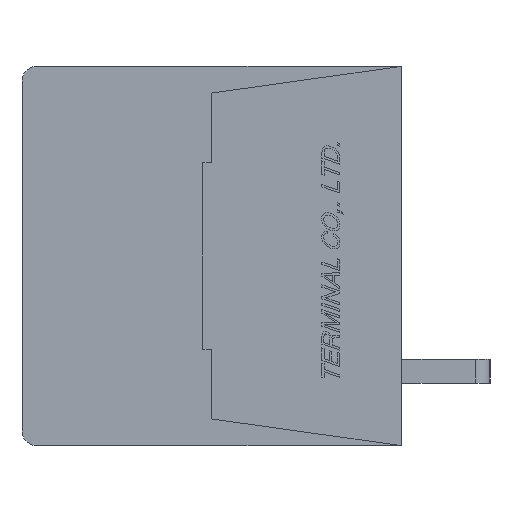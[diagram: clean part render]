
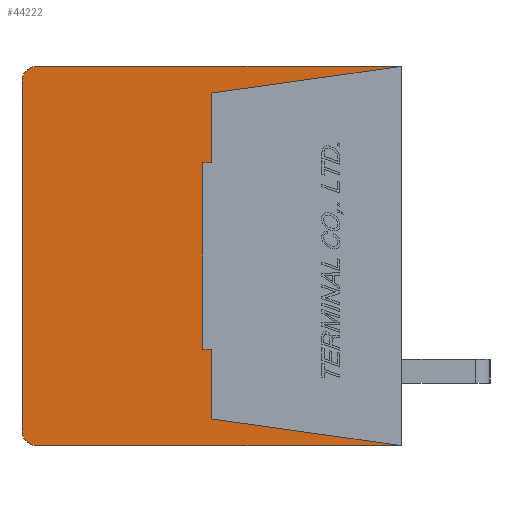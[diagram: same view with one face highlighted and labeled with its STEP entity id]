
A CAD part, left-side view. The second image highlights one B-rep face of the part: STEP entity #44222.
In plain terms, the highlighted planar face has unit normal (-1, 0, 0).
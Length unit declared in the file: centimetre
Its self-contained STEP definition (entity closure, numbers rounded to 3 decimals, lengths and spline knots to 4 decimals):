
#2254=CIRCLE('',#75795,0.05);
#2255=CIRCLE('',#75798,0.05);
#3864=VERTEX_POINT('',#61307);
#3865=VERTEX_POINT('',#61309);
#3866=VERTEX_POINT('',#61313);
#3867=VERTEX_POINT('',#61317);
#3868=VERTEX_POINT('',#61321);
#3869=VERTEX_POINT('',#61325);
#3870=VERTEX_POINT('',#61329);
#3871=VERTEX_POINT('',#61331);
#3872=VERTEX_POINT('',#61333);
#3873=VERTEX_POINT('',#61335);
#3874=VERTEX_POINT('',#61337);
#3875=VERTEX_POINT('',#61339);
#8544=VECTOR('',#51272,1.);
#8548=VECTOR('',#51281,1.);
#8551=VECTOR('',#51289,1.);
#8552=VECTOR('',#51291,1.);
#8553=VECTOR('',#51292,1.);
#8554=VECTOR('',#51293,1.);
#8555=VECTOR('',#51294,1.);
#8556=VECTOR('',#51295,1.);
#8557=VECTOR('',#51296,1.);
#8558=VECTOR('',#51297,1.);
#13746=LINE('',#61308,#8544);
#13750=LINE('',#61318,#8548);
#13753=LINE('',#61326,#8551);
#13754=LINE('',#61328,#8552);
#13755=LINE('',#61330,#8553);
#13756=LINE('',#61332,#8554);
#13757=LINE('',#61334,#8555);
#13758=LINE('',#61336,#8556);
#13759=LINE('',#61338,#8557);
#13760=LINE('',#61340,#8558);
#19524=EDGE_CURVE('',#3865,#3864,#13746,.T.);
#19527=EDGE_CURVE('',#3866,#3864,#2254,.T.);
#19529=EDGE_CURVE('',#3866,#3867,#13750,.T.);
#19531=EDGE_CURVE('',#3868,#3867,#2255,.T.);
#19533=EDGE_CURVE('',#3868,#3869,#13753,.T.);
#19534=EDGE_CURVE('',#3870,#3865,#13754,.T.);
#19535=EDGE_CURVE('',#3869,#3871,#13755,.T.);
#19536=EDGE_CURVE('',#3871,#3872,#13756,.T.);
#19537=EDGE_CURVE('',#3872,#3873,#13757,.T.);
#19538=EDGE_CURVE('',#3873,#3874,#13758,.T.);
#19539=EDGE_CURVE('',#3874,#3875,#13759,.T.);
#19540=EDGE_CURVE('',#3875,#3870,#13760,.T.);
#28423=ORIENTED_EDGE('',*,*,#19534,.T.);
#28424=ORIENTED_EDGE('',*,*,#19524,.T.);
#28425=ORIENTED_EDGE('',*,*,#19527,.F.);
#28426=ORIENTED_EDGE('',*,*,#19529,.T.);
#28427=ORIENTED_EDGE('',*,*,#19531,.F.);
#28428=ORIENTED_EDGE('',*,*,#19533,.T.);
#28429=ORIENTED_EDGE('',*,*,#19535,.T.);
#28430=ORIENTED_EDGE('',*,*,#19536,.T.);
#28431=ORIENTED_EDGE('',*,*,#19537,.T.);
#28432=ORIENTED_EDGE('',*,*,#19538,.T.);
#28433=ORIENTED_EDGE('',*,*,#19539,.T.);
#28434=ORIENTED_EDGE('',*,*,#19540,.T.);
#38492=EDGE_LOOP('',(#28423,#28424,#28425,#28426,#28427,#28428,#28429,#28430,
#28431,#28432,#28433,#28434));
#41418=FACE_BOUND('',#38492,.T.);
#44222=ADVANCED_FACE('',(#41418),#46662,.F.);
#46662=PLANE('',#75800);
#51272=DIRECTION('',(0.,1.,0.));
#51277=DIRECTION('',(1.,0.,0.));
#51278=DIRECTION('',(0.,0.,-0.05));
#51281=DIRECTION('',(0.,0.,-1.));
#51285=DIRECTION('',(1.,0.,0.));
#51286=DIRECTION('',(0.,0.,-0.05));
#51289=DIRECTION('',(0.,-1.,0.));
#51290=DIRECTION('',(1.,0.,0.));
#51291=DIRECTION('',(0.,-0.99,0.139));
#51292=DIRECTION('',(0.,0.99,0.139));
#51293=DIRECTION('',(0.,0.,1.));
#51294=DIRECTION('',(0.,1.,0.));
#51295=DIRECTION('',(0.,0.,1.));
#51296=DIRECTION('',(0.,-1.,0.));
#51297=DIRECTION('',(0.,0.,1.));
#61307=CARTESIAN_POINT('',(-1.,1.23,0.64));
#61308=CARTESIAN_POINT('',(-1.,0.,0.64));
#61309=CARTESIAN_POINT('',(-1.,0.,0.64));
#61313=CARTESIAN_POINT('',(-1.,1.28,0.59));
#61314=CARTESIAN_POINT('',(-1.,1.23,0.59));
#61317=CARTESIAN_POINT('',(-1.,1.28,-0.59));
#61318=CARTESIAN_POINT('',(-1.,1.28,0.59));
#61321=CARTESIAN_POINT('',(-1.,1.23,-0.64));
#61322=CARTESIAN_POINT('',(-1.,1.23,-0.59));
#61325=CARTESIAN_POINT('',(-1.,0.,-0.64));
#61326=CARTESIAN_POINT('',(-1.,1.23,-0.64));
#61327=CARTESIAN_POINT('',(-1.,0.6345,0.));
#61328=CARTESIAN_POINT('',(-1.,0.64,0.55));
#61329=CARTESIAN_POINT('',(-1.,0.64,0.55));
#61330=CARTESIAN_POINT('',(-1.,0.,-0.64));
#61331=CARTESIAN_POINT('',(-1.,0.64,-0.55));
#61332=CARTESIAN_POINT('',(-1.,0.64,-0.55));
#61333=CARTESIAN_POINT('',(-1.,0.64,-0.315));
#61334=CARTESIAN_POINT('',(-1.,0.64,-0.315));
#61335=CARTESIAN_POINT('',(-1.,0.67,-0.315));
#61336=CARTESIAN_POINT('',(-1.,0.67,-0.315));
#61337=CARTESIAN_POINT('',(-1.,0.67,0.315));
#61338=CARTESIAN_POINT('',(-1.,0.67,0.315));
#61339=CARTESIAN_POINT('',(-1.,0.64,0.315));
#61340=CARTESIAN_POINT('',(-1.,0.64,0.315));
#75795=AXIS2_PLACEMENT_3D('',#61314,#51277,#51278);
#75798=AXIS2_PLACEMENT_3D('',#61322,#51285,#51286);
#75800=AXIS2_PLACEMENT_3D('',#61327,#51290,$);
